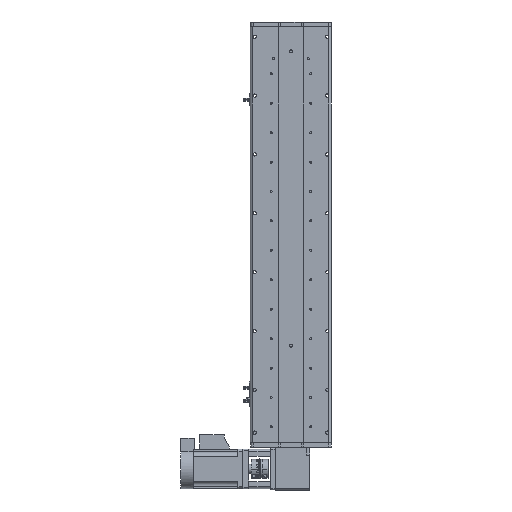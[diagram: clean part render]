
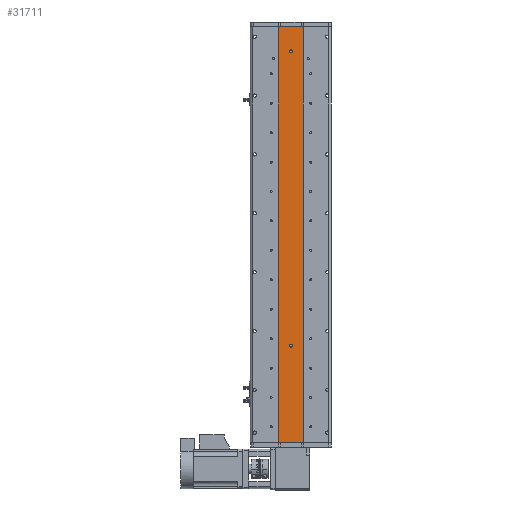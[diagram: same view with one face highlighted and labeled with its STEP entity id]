
A CAD part, front view. The second image highlights one B-rep face of the part: STEP entity #31711.
In plain terms, the highlighted planar face has unit normal (0, -1, 0).
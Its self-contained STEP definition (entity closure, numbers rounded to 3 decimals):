
#583 = CARTESIAN_POINT ( 'NONE',  ( -25., 1., 423.5 ) ) ;
#790 = VERTEX_POINT ( 'NONE', #30057 ) ;
#1234 = CARTESIAN_POINT ( 'NONE',  ( 0., 1., 376.5 ) ) ;
#1794 = DIRECTION ( 'NONE',  ( 0., -1., 0. ) ) ;
#1808 = ORIENTED_EDGE ( 'NONE', *, *, #7363, .F. ) ;
#2513 = ORIENTED_EDGE ( 'NONE', *, *, #20067, .F. ) ;
#3137 = AXIS2_PLACEMENT_3D ( 'NONE', #40981, #19309, #44670 ) ;
#3542 = ORIENTED_EDGE ( 'NONE', *, *, #33289, .F. ) ;
#4366 = DIRECTION ( 'NONE',  ( 0., 0., -1. ) ) ;
#5299 = CARTESIAN_POINT ( 'NONE',  ( 25., 1., 423.5 ) ) ;
#6106 = AXIS2_PLACEMENT_3D ( 'NONE', #5299, #29950, #34382 ) ;
#7363 = EDGE_CURVE ( 'NONE', #34127, #23340, #18639, .T. ) ;
#8020 = CARTESIAN_POINT ( 'NONE',  ( 25., 1., 423.5 ) ) ;
#8376 = CARTESIAN_POINT ( 'NONE',  ( 25., 1., -423.5 ) ) ;
#8654 = FACE_BOUND ( 'NONE', #22466, .T. ) ;
#9000 = PLANE ( 'NONE',  #6106 ) ;
#9385 = EDGE_LOOP ( 'NONE', ( #24953, #3542, #2513, #10497 ) ) ;
#10497 = ORIENTED_EDGE ( 'NONE', *, *, #20430, .T. ) ;
#10818 = CIRCLE ( 'NONE', #3137, 3. ) ;
#10920 = DIRECTION ( 'NONE',  ( 1., 0., 0. ) ) ;
#11740 = CARTESIAN_POINT ( 'NONE',  ( 25., 1., 423.5 ) ) ;
#11813 = CARTESIAN_POINT ( 'NONE',  ( 0., 1., 373.5 ) ) ;
#12230 = EDGE_CURVE ( 'NONE', #790, #45227, #10818, .T. ) ;
#13050 = DIRECTION ( 'NONE',  ( 0., -1., 0. ) ) ;
#13162 = CARTESIAN_POINT ( 'NONE',  ( -25., 1., -423.5 ) ) ;
#13728 = CARTESIAN_POINT ( 'NONE',  ( 0., 1., 370.5 ) ) ;
#13891 = EDGE_CURVE ( 'NONE', #21145, #24325, #40667, .T. ) ;
#15508 = DIRECTION ( 'NONE',  ( 0., 0., -1. ) ) ;
#17025 = EDGE_CURVE ( 'NONE', #45227, #790, #27021, .T. ) ;
#17921 = CARTESIAN_POINT ( 'NONE',  ( 0., 1., -223.5 ) ) ;
#18639 = CIRCLE ( 'NONE', #43443, 3. ) ;
#18831 = VECTOR ( 'NONE', #4366, 1000. ) ;
#19309 = DIRECTION ( 'NONE',  ( 0., -1., 0. ) ) ;
#20067 = EDGE_CURVE ( 'NONE', #34937, #24273, #26645, .T. ) ;
#20430 = EDGE_CURVE ( 'NONE', #34937, #21145, #35787, .T. ) ;
#21145 = VERTEX_POINT ( 'NONE', #13162 ) ;
#21424 = VECTOR ( 'NONE', #10920, 1000. ) ;
#22466 = EDGE_LOOP ( 'NONE', ( #44070, #33925 ) ) ;
#23097 = EDGE_LOOP ( 'NONE', ( #29474, #1808 ) ) ;
#23340 = VERTEX_POINT ( 'NONE', #13728 ) ;
#23432 = DIRECTION ( 'NONE',  ( 1., 0., 0. ) ) ;
#23640 = CARTESIAN_POINT ( 'NONE',  ( 0., 1., 373.5 ) ) ;
#24273 = VERTEX_POINT ( 'NONE', #11740 ) ;
#24325 = VERTEX_POINT ( 'NONE', #8376 ) ;
#24953 = ORIENTED_EDGE ( 'NONE', *, *, #13891, .T. ) ;
#26102 = DIRECTION ( 'NONE',  ( 0., 0., -1. ) ) ;
#26645 = LINE ( 'NONE', #41469, #47072 ) ;
#27021 = CIRCLE ( 'NONE', #30106, 3. ) ;
#27268 = DIRECTION ( 'NONE',  ( 0., 0., -1. ) ) ;
#29460 = AXIS2_PLACEMENT_3D ( 'NONE', #11813, #37180, #15508 ) ;
#29474 = ORIENTED_EDGE ( 'NONE', *, *, #37268, .F. ) ;
#29950 = DIRECTION ( 'NONE',  ( 0., 1., 0. ) ) ;
#30057 = CARTESIAN_POINT ( 'NONE',  ( 0., 1., -229.5 ) ) ;
#30106 = AXIS2_PLACEMENT_3D ( 'NONE', #34772, #13050, #38402 ) ;
#30124 = CIRCLE ( 'NONE', #29460, 3. ) ;
#31711 = ADVANCED_FACE ( 'NONE', ( #37603, #8654, #38755 ), #9000, .F. ) ;
#32473 = CARTESIAN_POINT ( 'NONE',  ( -25., 1., 423.5 ) ) ;
#32480 = CARTESIAN_POINT ( 'NONE',  ( 25., 1., -423.5 ) ) ;
#33289 = EDGE_CURVE ( 'NONE', #24273, #24325, #36953, .T. ) ;
#33925 = ORIENTED_EDGE ( 'NONE', *, *, #17025, .F. ) ;
#34127 = VERTEX_POINT ( 'NONE', #1234 ) ;
#34382 = DIRECTION ( 'NONE',  ( 0., 0., 1. ) ) ;
#34772 = CARTESIAN_POINT ( 'NONE',  ( 0., 1., -226.5 ) ) ;
#34937 = VERTEX_POINT ( 'NONE', #32473 ) ;
#35787 = LINE ( 'NONE', #583, #44307 ) ;
#36953 = LINE ( 'NONE', #8020, #18831 ) ;
#37180 = DIRECTION ( 'NONE',  ( 0., -1., 0. ) ) ;
#37268 = EDGE_CURVE ( 'NONE', #23340, #34127, #30124, .T. ) ;
#37603 = FACE_BOUND ( 'NONE', #23097, .T. ) ;
#38402 = DIRECTION ( 'NONE',  ( 0., 0., -1. ) ) ;
#38755 = FACE_OUTER_BOUND ( 'NONE', #9385, .T. ) ;
#40667 = LINE ( 'NONE', #32480, #21424 ) ;
#40981 = CARTESIAN_POINT ( 'NONE',  ( 0., 1., -226.5 ) ) ;
#41469 = CARTESIAN_POINT ( 'NONE',  ( 25., 1., 423.5 ) ) ;
#43443 = AXIS2_PLACEMENT_3D ( 'NONE', #23640, #1794, #27268 ) ;
#44070 = ORIENTED_EDGE ( 'NONE', *, *, #12230, .F. ) ;
#44307 = VECTOR ( 'NONE', #26102, 1000. ) ;
#44670 = DIRECTION ( 'NONE',  ( 0., 0., -1. ) ) ;
#45227 = VERTEX_POINT ( 'NONE', #17921 ) ;
#47072 = VECTOR ( 'NONE', #23432, 1000. ) ;
